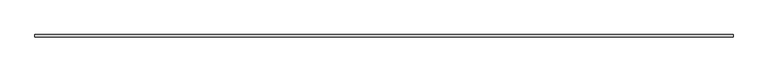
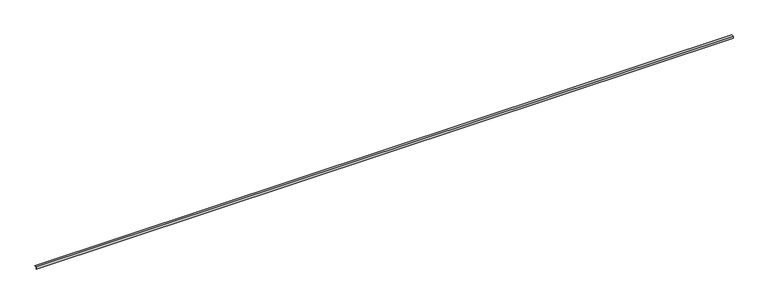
"""IFC4 building model written with IfcOpenShell, lengths in millimetres: beam geometry,  76120 :  76120."""

from ifc_helpers import new_model, si_unit, frame, origin, place, context, project, spatial, polyline, outline, extrude, source, transform, mapped, element, save


def beam_f081dd8b(model_context):
    return source(origin(), model_context, "Body", "SweptSolid", [
        extrude(outline(polyline([(-24901.0, 8110.0), (-24851.0, 8110.0), (-24851.0, 8106.0), (-24890.0, 8106.0), (-24897.0, 8099.0), (-24897.0, 8060.0), (-24901.0, 8060.0), (-24901.0, 8110.0)])), frame((-180.0000001, 0.0, 0.0), z_axis=(1.0, 0.0, 0.0), x_axis=(0.0, 1.0, 0.0)), (0.0, 0.0, 1.0), 15570.0),
    ])


if __name__ == "__main__":
    model = new_model("IFC4")
    model_context = context("Model", 3, world=origin())
    ifc_project = project(units=[si_unit("LENGTHUNIT", "METRE", prefix="MILLI")], contexts=[model_context])
    site = spatial("IfcSite", under=ifc_project)
    building = spatial("IfcBuilding", under=site)
    placement = place(None, origin())
    beam_shape = beam_f081dd8b(model_context)
    element("IfcBeam", 1, ObjectType=" 76120 :  76120", at=placement, inside=building, context=model_context, shape_type="MappedRepresentation", body=[
        mapped(beam_shape, transform((0.0, 0.0, 0.0), x_axis=(1.0, 0.0, 0.0), y_axis=(0.0, 1.0, 0.0), z_axis=(0.0, 0.0, 1.0))),
    ])
    save(model, "model.ifc")
